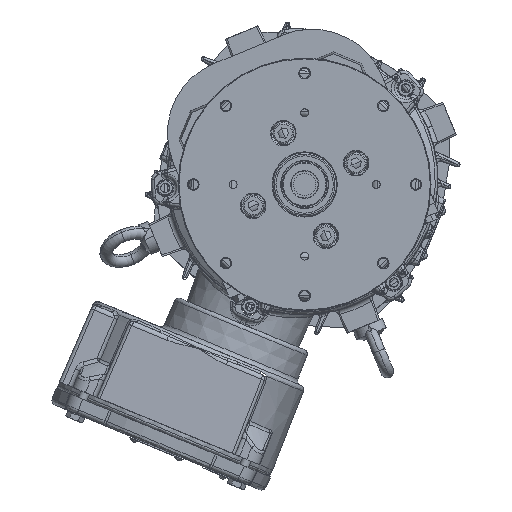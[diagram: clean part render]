
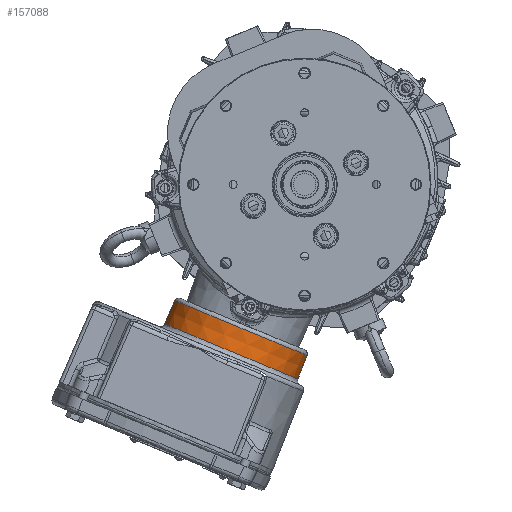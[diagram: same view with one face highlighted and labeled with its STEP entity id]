
A CAD part, front view. The second image highlights one B-rep face of the part: STEP entity #157088.
In plain terms, the highlighted conical face has half-angle 1 degrees and reference radius 45.324 mm.
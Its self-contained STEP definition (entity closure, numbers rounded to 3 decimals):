
#3949 = VECTOR ( 'NONE', #153766, 1000. ) ;
#4658 = DIRECTION ( 'NONE',  ( -0.367, 0., -0.93 ) ) ;
#6562 = DIRECTION ( 'NONE',  ( -0.383, 0., -0.924 ) ) ;
#10927 = CARTESIAN_POINT ( 'NONE',  ( 1.607, 409.2, -107.55 ) ) ;
#21184 = FACE_OUTER_BOUND ( 'NONE', #44254, .T. ) ;
#21466 = DIRECTION ( 'NONE',  ( 0.383, 0., 0.924 ) ) ;
#22761 = DIRECTION ( 'NONE',  ( 0.924, 0., -0.383 ) ) ;
#23470 = CARTESIAN_POINT ( 'NONE',  ( -81.628, 409.2, -73.073 ) ) ;
#33705 = CARTESIAN_POINT ( 'NONE',  ( -87.969, 409.2, -87.656 ) ) ;
#39171 = DIRECTION ( 'NONE',  ( -0.924, 0., 0.383 ) ) ;
#40575 = DIRECTION ( 'NONE',  ( -0.924, 0., 0.383 ) ) ;
#41376 = EDGE_CURVE ( 'NONE', #44912, #102660, #130859, .T. ) ;
#42157 = VERTEX_POINT ( 'NONE', #10927 ) ;
#44254 = EDGE_LOOP ( 'NONE', ( #86344, #76244, #96936, #46758 ) ) ;
#44912 = VERTEX_POINT ( 'NONE', #33705 ) ;
#46758 = ORIENTED_EDGE ( 'NONE', *, *, #95999, .F. ) ;
#49692 = CARTESIAN_POINT ( 'NONE',  ( -46.095, 409.2, -105.001 ) ) ;
#53976 = LINE ( 'NONE', #125178, #117813 ) ;
#61615 = AXIS2_PLACEMENT_3D ( 'NONE', #68125, #6562, #40575 ) ;
#61623 = DIRECTION ( 'NONE',  ( -0.383, 0., -0.924 ) ) ;
#63912 = CONICAL_SURFACE ( 'NONE', #107885, 45.324, 0.017 ) ;
#68125 = CARTESIAN_POINT ( 'NONE',  ( -40.011, 409.2, -90.312 ) ) ;
#73737 = EDGE_CURVE ( 'NONE', #146398, #44912, #155358, .T. ) ;
#76244 = ORIENTED_EDGE ( 'NONE', *, *, #73737, .T. ) ;
#82343 = CIRCLE ( 'NONE', #61615, 45.046 ) ;
#84297 = CARTESIAN_POINT ( 'NONE',  ( -4.221, 409.2, -122.346 ) ) ;
#86344 = ORIENTED_EDGE ( 'NONE', *, *, #148330, .T. ) ;
#95999 = EDGE_CURVE ( 'NONE', #42157, #102660, #53976, .T. ) ;
#96936 = ORIENTED_EDGE ( 'NONE', *, *, #41376, .T. ) ;
#97353 = CARTESIAN_POINT ( 'NONE',  ( -46.095, 409.2, -105.001 ) ) ;
#97379 = AXIS2_PLACEMENT_3D ( 'NONE', #49692, #21466, #39171 ) ;
#102660 = VERTEX_POINT ( 'NONE', #84297 ) ;
#103717 = CARTESIAN_POINT ( 'NONE',  ( -87.969, 409.2, -87.656 ) ) ;
#107885 = AXIS2_PLACEMENT_3D ( 'NONE', #97353, #61623, #22761 ) ;
#117813 = VECTOR ( 'NONE', #4658, 1000. ) ;
#125178 = CARTESIAN_POINT ( 'NONE',  ( -4.221, 409.2, -122.346 ) ) ;
#130859 = CIRCLE ( 'NONE', #97379, 45.324 ) ;
#146398 = VERTEX_POINT ( 'NONE', #23470 ) ;
#148330 = EDGE_CURVE ( 'NONE', #42157, #146398, #82343, .T. ) ;
#153766 = DIRECTION ( 'NONE',  ( -0.399, 0., -0.917 ) ) ;
#155358 = LINE ( 'NONE', #103717, #3949 ) ;
#157088 = ADVANCED_FACE ( 'NONE', ( #21184 ), #63912, .T. ) ;
